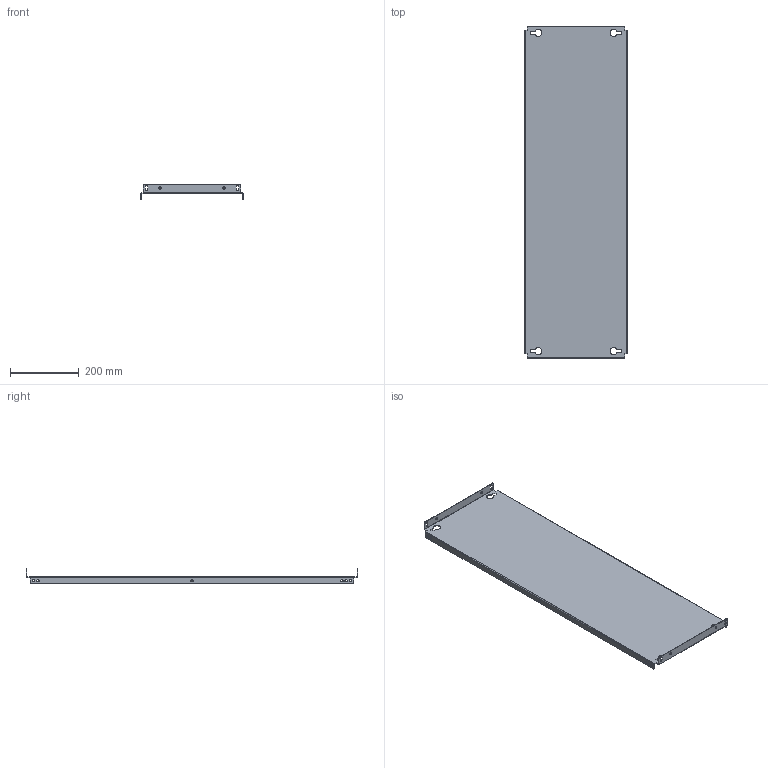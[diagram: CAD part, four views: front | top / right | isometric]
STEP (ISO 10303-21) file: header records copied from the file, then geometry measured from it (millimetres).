
FILE_DESCRIPTION (( 'STEP AP203' ), '1' );
FILE_NAME ('R5PPS10004.STEP', '2021-12-20T06:48:31', ( '' ), ( '' ), 'SwSTEP 2.0', 'SolidWorks 2020', '' );
FILE_SCHEMA (( 'CONFIG_CONTROL_DESIGN' ));
Length unit declared in the file: millimetre
Products named in the file (1): R5PPS10004
Bounding box: 300 x 969 x 43 mm (x, y, z)
Volume: 663257.2 mm3; surface area: 670336 mm2
Topology: 1 solids, 1 shells, 140 faces, 382 edges, 244 vertices
Faces by surface type: cylinder 82, plane 58
Entity records: 4627 total; most frequent: DIRECTION 828, CARTESIAN_POINT 767, ORIENTED_EDGE 764, EDGE_CURVE 382, AXIS2_PLACEMENT_3D 305, VERTEX_POINT 244, VECTOR 218, LINE 218
